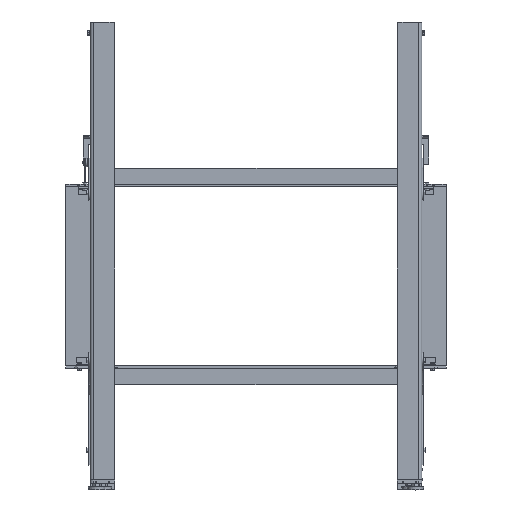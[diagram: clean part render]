
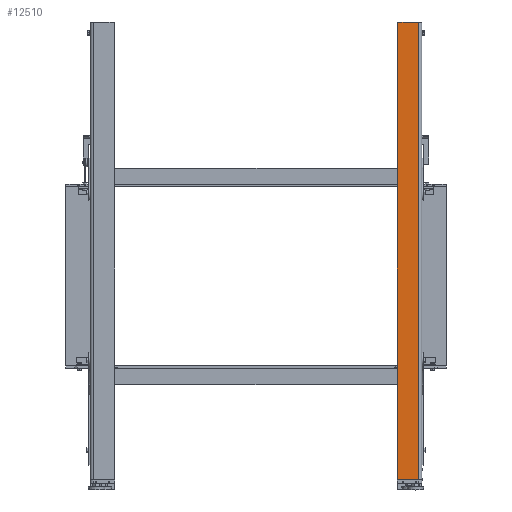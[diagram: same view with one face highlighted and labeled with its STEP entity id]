
A CAD part, front view. The second image highlights one B-rep face of the part: STEP entity #12510.
In plain terms, the highlighted planar face has unit normal (0, -1, 0) as drawn and (-1, 0, 0) by its records, which use the part's own axes.
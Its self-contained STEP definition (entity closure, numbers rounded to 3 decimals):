
#1235=PLANE('',#13832);
#1870=FACE_OUTER_BOUND('',#2690,.T.);
#2690=EDGE_LOOP('',(#11194,#11195,#11196,#11197,#11198,#11199));
#3699=LINE('',#21226,#4696);
#3705=LINE('',#21242,#4702);
#3713=LINE('',#21264,#4710);
#3715=LINE('',#21270,#4712);
#4696=VECTOR('',#17286,1408.5);
#4702=VECTOR('',#17302,63.75);
#4710=VECTOR('',#17328,1412.5);
#4712=VECTOR('',#17338,63.75);
#5347=CIRCLE('',#13809,2.);
#5349=CIRCLE('',#13814,2.);
#6413=VERTEX_POINT('',#21216);
#6414=VERTEX_POINT('',#21218);
#6416=VERTEX_POINT('',#21224);
#6420=VERTEX_POINT('',#21236);
#6421=VERTEX_POINT('',#21240);
#6426=VERTEX_POINT('',#21262);
#8015=EDGE_CURVE('',#6413,#6414,#5347,.T.);
#8019=EDGE_CURVE('',#6416,#6413,#3699,.T.);
#8025=EDGE_CURVE('',#6420,#6416,#5349,.T.);
#8027=EDGE_CURVE('',#6420,#6421,#3705,.T.);
#8038=EDGE_CURVE('',#6426,#6421,#3713,.T.);
#8042=EDGE_CURVE('',#6414,#6426,#3715,.T.);
#11194=ORIENTED_EDGE('',*,*,#8015,.F.);
#11195=ORIENTED_EDGE('',*,*,#8019,.F.);
#11196=ORIENTED_EDGE('',*,*,#8025,.F.);
#11197=ORIENTED_EDGE('',*,*,#8027,.T.);
#11198=ORIENTED_EDGE('',*,*,#8038,.F.);
#11199=ORIENTED_EDGE('',*,*,#8042,.F.);
#12510=ADVANCED_FACE('',(#1870),#1235,.F.);
#13809=AXIS2_PLACEMENT_3D('',#21219,#17279,#17280);
#13814=AXIS2_PLACEMENT_3D('',#21238,#17297,#17298);
#13832=AXIS2_PLACEMENT_3D('',#21274,#17345,#17346);
#17279=DIRECTION('center_axis',(1.,0.,0.));
#17280=DIRECTION('ref_axis',(0.,0.707,0.707));
#17286=DIRECTION('',(0.,0.,1.));
#17297=DIRECTION('center_axis',(1.,0.,0.));
#17298=DIRECTION('ref_axis',(0.,0.707,-0.707));
#17302=DIRECTION('',(0.,-1.,0.));
#17328=DIRECTION('',(0.,0.,-1.));
#17338=DIRECTION('',(0.,-1.,0.));
#17345=DIRECTION('center_axis',(1.,0.,0.));
#17346=DIRECTION('ref_axis',(0.,0.,-1.));
#21216=CARTESIAN_POINT('',(-6.,70.,1410.5));
#21218=CARTESIAN_POINT('',(-6.,68.,1412.5));
#21219=CARTESIAN_POINT('Origin',(-6.,68.,1410.5));
#21224=CARTESIAN_POINT('',(-6.,70.,2.));
#21226=CARTESIAN_POINT('',(-6.,70.,0.));
#21236=CARTESIAN_POINT('',(-6.,68.,0.));
#21238=CARTESIAN_POINT('Origin',(-6.,68.,2.));
#21240=CARTESIAN_POINT('',(-6.,4.25,0.));
#21242=CARTESIAN_POINT('',(-6.,70.,0.));
#21262=CARTESIAN_POINT('',(-6.,4.25,1412.5));
#21264=CARTESIAN_POINT('',(-6.,4.25,706.25));
#21270=CARTESIAN_POINT('',(-6.,70.,1412.5));
#21274=CARTESIAN_POINT('Origin',(-6.,-1.091,706.25));
